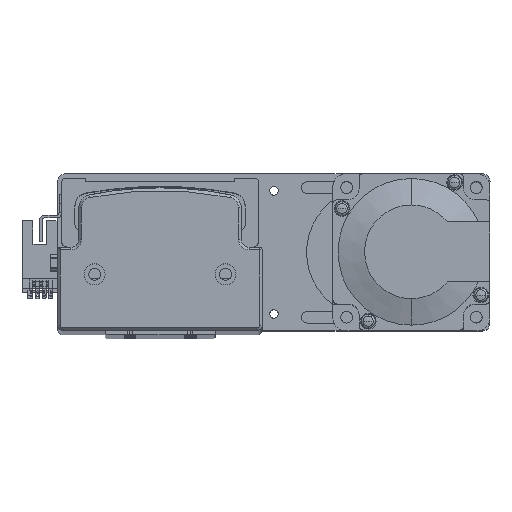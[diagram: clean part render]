
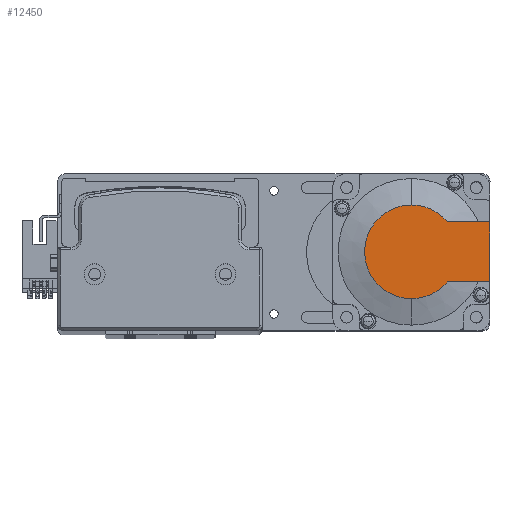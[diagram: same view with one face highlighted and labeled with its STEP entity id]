
A CAD part, top view. The second image highlights one B-rep face of the part: STEP entity #12450.
In plain terms, the highlighted planar face has unit normal (0, 0, 1) as drawn and (-1, 0, 0) by its records, which use the part's own axes.
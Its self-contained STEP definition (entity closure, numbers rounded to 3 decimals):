
#2019 = CARTESIAN_POINT ( 'NONE',  ( -118.5, -8.941, -11.45 ) ) ;
#2169 = CARTESIAN_POINT ( 'NONE',  ( -118.5, 13.735, -11.45 ) ) ;
#2446 = DIRECTION ( 'NONE',  ( -1., 0., 0. ) ) ;
#2503 = VERTEX_POINT ( 'NONE', #36723 ) ;
#2581 = DIRECTION ( 'NONE',  ( 0., 0., -1. ) ) ;
#3823 = DIRECTION ( 'NONE',  ( 0., 0., 1. ) ) ;
#3957 = EDGE_CURVE ( 'NONE', #40150, #51331, #39260, .T. ) ;
#5039 = LINE ( 'NONE', #11576, #36850 ) ;
#5654 = EDGE_CURVE ( 'NONE', #2503, #30715, #47437, .T. ) ;
#7464 = CARTESIAN_POINT ( 'NONE',  ( -118.5, 0., 0. ) ) ;
#8859 = CIRCLE ( 'NONE', #38218, 17.881 ) ;
#11486 = DIRECTION ( 'NONE',  ( 0., 0., -1. ) ) ;
#11576 = CARTESIAN_POINT ( 'NONE',  ( -118.5, 0., 11.45 ) ) ;
#12450 = ADVANCED_FACE ( 'NONE', ( #40855 ), #35588, .T. ) ;
#14936 = CIRCLE ( 'NONE', #42008, 17.881 ) ;
#16262 = ORIENTED_EDGE ( 'NONE', *, *, #32995, .T. ) ;
#16755 = CARTESIAN_POINT ( 'NONE',  ( -118.5, 30., -11.45 ) ) ;
#16909 = VERTEX_POINT ( 'NONE', #2169 ) ;
#16943 = ORIENTED_EDGE ( 'NONE', *, *, #3957, .F. ) ;
#17526 = ORIENTED_EDGE ( 'NONE', *, *, #42585, .F. ) ;
#18148 = VECTOR ( 'NONE', #42613, 1000. ) ;
#20869 = VECTOR ( 'NONE', #30048, 1000. ) ;
#21627 = ORIENTED_EDGE ( 'NONE', *, *, #5654, .T. ) ;
#22342 = EDGE_CURVE ( 'NONE', #40150, #16909, #32698, .T. ) ;
#23899 = EDGE_CURVE ( 'NONE', #16909, #2503, #14936, .T. ) ;
#26501 = CARTESIAN_POINT ( 'NONE',  ( -118.5, 0., 0. ) ) ;
#26619 = DIRECTION ( 'NONE',  ( -1., 0., 0. ) ) ;
#27060 = VERTEX_POINT ( 'NONE', #31053 ) ;
#27473 = EDGE_LOOP ( 'NONE', ( #46611, #34697, #21627, #16262, #17526, #16943 ) ) ;
#27830 = DIRECTION ( 'NONE',  ( -1., 0., 0. ) ) ;
#30048 = DIRECTION ( 'NONE',  ( 0., -1., 0. ) ) ;
#30459 = DIRECTION ( 'NONE',  ( 0., 0., -1. ) ) ;
#30715 = VERTEX_POINT ( 'NONE', #41250 ) ;
#31053 = CARTESIAN_POINT ( 'NONE',  ( -118.5, 13.735, 11.45 ) ) ;
#32698 = LINE ( 'NONE', #2019, #20869 ) ;
#32995 = EDGE_CURVE ( 'NONE', #30715, #27060, #8859, .T. ) ;
#34697 = ORIENTED_EDGE ( 'NONE', *, *, #23899, .T. ) ;
#34800 = CARTESIAN_POINT ( 'NONE',  ( -118.5, 30., 25. ) ) ;
#35352 = DIRECTION ( 'NONE',  ( -1., 0., 0. ) ) ;
#35588 = PLANE ( 'NONE',  #48866 ) ;
#36723 = CARTESIAN_POINT ( 'NONE',  ( -118.5, 0., -17.881 ) ) ;
#36850 = VECTOR ( 'NONE', #47409, 1000. ) ;
#38218 = AXIS2_PLACEMENT_3D ( 'NONE', #26501, #2446, #30459 ) ;
#39260 = LINE ( 'NONE', #34800, #18148 ) ;
#40150 = VERTEX_POINT ( 'NONE', #16755 ) ;
#40855 = FACE_OUTER_BOUND ( 'NONE', #27473, .T. ) ;
#41235 = CARTESIAN_POINT ( 'NONE',  ( -118.5, 30., 11.45 ) ) ;
#41250 = CARTESIAN_POINT ( 'NONE',  ( -118.5, 0., 17.881 ) ) ;
#42008 = AXIS2_PLACEMENT_3D ( 'NONE', #7464, #35352, #11486 ) ;
#42585 = EDGE_CURVE ( 'NONE', #51331, #27060, #5039, .T. ) ;
#42613 = DIRECTION ( 'NONE',  ( 0., 0., 1. ) ) ;
#45441 = AXIS2_PLACEMENT_3D ( 'NONE', #50293, #26619, #2581 ) ;
#46611 = ORIENTED_EDGE ( 'NONE', *, *, #22342, .T. ) ;
#47409 = DIRECTION ( 'NONE',  ( 0., -1., 0. ) ) ;
#47437 = CIRCLE ( 'NONE', #45441, 17.881 ) ;
#48866 = AXIS2_PLACEMENT_3D ( 'NONE', #51506, #27830, #3823 ) ;
#50293 = CARTESIAN_POINT ( 'NONE',  ( -118.5, 0., 0. ) ) ;
#51331 = VERTEX_POINT ( 'NONE', #41235 ) ;
#51506 = CARTESIAN_POINT ( 'NONE',  ( -118.5, -8.941, 0. ) ) ;
